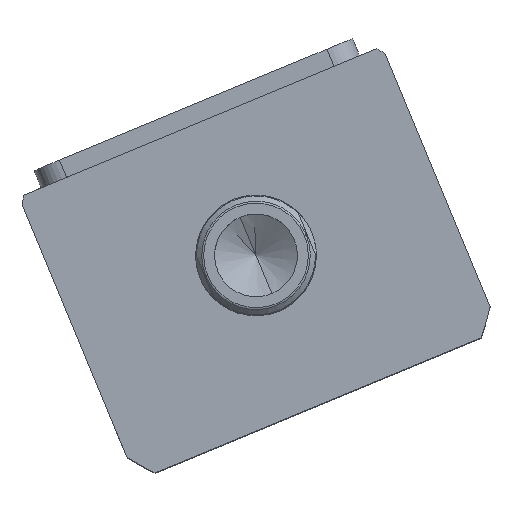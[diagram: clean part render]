
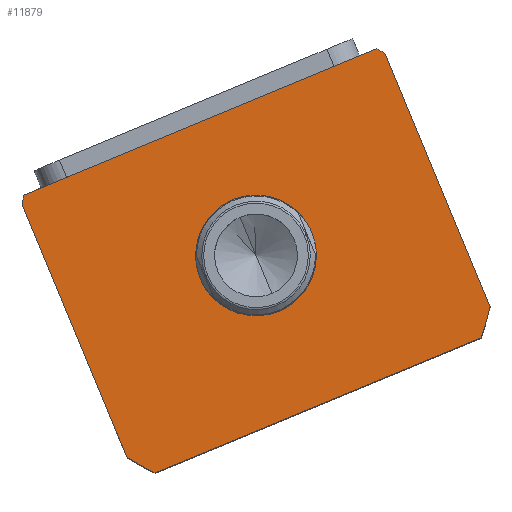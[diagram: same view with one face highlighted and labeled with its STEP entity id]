
A CAD part, top view. The second image highlights one B-rep face of the part: STEP entity #11879.
In plain terms, the highlighted planar face has unit normal (0, 0, 1) as drawn and (0, 0, -1) by its records, which use the part's own axes.
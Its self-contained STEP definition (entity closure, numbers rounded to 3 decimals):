
#265 = ORIENTED_EDGE ( 'NONE', *, *, #2954, .F. ) ;
#754 = CARTESIAN_POINT ( 'NONE',  ( -55.374, 44.5, 0. ) ) ;
#919 = CARTESIAN_POINT ( 'NONE',  ( 57., 44.5, 0. ) ) ;
#961 = CARTESIAN_POINT ( 'NONE',  ( 51.198, -44.5, 0. ) ) ;
#994 = FACE_BOUND ( 'NONE', #2197, .T. ) ;
#1126 = CIRCLE ( 'NONE', #1950, 69.5 ) ;
#1186 = CARTESIAN_POINT ( 'NONE',  ( 0., 2.5, 0. ) ) ;
#1414 = ORIENTED_EDGE ( 'NONE', *, *, #6370, .F. ) ;
#1782 = CIRCLE ( 'NONE', #2218, 17.5 ) ;
#1824 = EDGE_CURVE ( 'NONE', #11654, #15796, #1126, .T. ) ;
#1950 = AXIS2_PLACEMENT_3D ( 'NONE', #16432, #16376, #16255 ) ;
#2197 = EDGE_LOOP ( 'NONE', ( #7407, #4196 ) ) ;
#2218 = AXIS2_PLACEMENT_3D ( 'NONE', #13843, #5112, #15318 ) ;
#2229 = CARTESIAN_POINT ( 'NONE',  ( 0., 2.5, 0. ) ) ;
#2289 = LINE ( 'NONE', #16234, #6203 ) ;
#2674 = DIRECTION ( 'NONE',  ( 1., 0., 0. ) ) ;
#2954 = EDGE_CURVE ( 'NONE', #15796, #15752, #16166, .T. ) ;
#2955 = VECTOR ( 'NONE', #8314, 1000. ) ;
#3104 = VECTOR ( 'NONE', #13516, 1000. ) ;
#3385 = CARTESIAN_POINT ( 'NONE',  ( 55.374, 44.5, 0. ) ) ;
#3561 = LINE ( 'NONE', #10507, #3104 ) ;
#3716 = DIRECTION ( 'NONE',  ( 1., 0., 0. ) ) ;
#4142 = EDGE_LOOP ( 'NONE', ( #1414, #17669, #18118, #9665, #9885, #265, #14489, #13562 ) ) ;
#4196 = ORIENTED_EDGE ( 'NONE', *, *, #17412, .T. ) ;
#4431 = CARTESIAN_POINT ( 'NONE',  ( -57., 42.265, 0. ) ) ;
#4912 = CARTESIAN_POINT ( 'NONE',  ( 0., 2.5, 0. ) ) ;
#5112 = DIRECTION ( 'NONE',  ( 0., 0., 1. ) ) ;
#5217 = VERTEX_POINT ( 'NONE', #7230 ) ;
#5307 = EDGE_CURVE ( 'NONE', #15752, #5217, #17941, .T. ) ;
#6203 = VECTOR ( 'NONE', #8942, 1000. ) ;
#6370 = EDGE_CURVE ( 'NONE', #14576, #15954, #17255, .T. ) ;
#6379 = DIRECTION ( 'NONE',  ( 1., 0., 0. ) ) ;
#6705 = CARTESIAN_POINT ( 'NONE',  ( -57., 44.5, 0. ) ) ;
#6947 = PLANE ( 'NONE',  #7710 ) ;
#7230 = CARTESIAN_POINT ( 'NONE',  ( -51.198, -44.5, 0. ) ) ;
#7407 = ORIENTED_EDGE ( 'NONE', *, *, #16892, .T. ) ;
#7554 = VERTEX_POINT ( 'NONE', #961 ) ;
#7710 = AXIS2_PLACEMENT_3D ( 'NONE', #18561, #8419, #18620 ) ;
#7938 = VECTOR ( 'NONE', #9604, 1000. ) ;
#8097 = DIRECTION ( 'NONE',  ( 0., 0., 1. ) ) ;
#8260 = VERTEX_POINT ( 'NONE', #9188 ) ;
#8314 = DIRECTION ( 'NONE',  ( 0., 1., 0. ) ) ;
#8353 = FACE_OUTER_BOUND ( 'NONE', #4142, .T. ) ;
#8419 = DIRECTION ( 'NONE',  ( 0., 0., 1. ) ) ;
#8942 = DIRECTION ( 'NONE',  ( 1., 0., 0. ) ) ;
#9054 = EDGE_CURVE ( 'NONE', #15954, #11654, #3561, .T. ) ;
#9115 = CARTESIAN_POINT ( 'NONE',  ( 57., -37.265, 0. ) ) ;
#9188 = CARTESIAN_POINT ( 'NONE',  ( 17.5, 2.5, 0. ) ) ;
#9327 = CARTESIAN_POINT ( 'NONE',  ( -17.5, 2.5, 0. ) ) ;
#9604 = DIRECTION ( 'NONE',  ( 0., -1., 0. ) ) ;
#9665 = ORIENTED_EDGE ( 'NONE', *, *, #14220, .F. ) ;
#9885 = ORIENTED_EDGE ( 'NONE', *, *, #5307, .F. ) ;
#10220 = CARTESIAN_POINT ( 'NONE',  ( -57., -37.265, 0. ) ) ;
#10507 = CARTESIAN_POINT ( 'NONE',  ( -57., 44.5, 0. ) ) ;
#10998 = VERTEX_POINT ( 'NONE', #9115 ) ;
#11423 = DIRECTION ( 'NONE',  ( 0., 0., 1. ) ) ;
#11449 = CIRCLE ( 'NONE', #14807, 69.5 ) ;
#11654 = VERTEX_POINT ( 'NONE', #754 ) ;
#11737 = AXIS2_PLACEMENT_3D ( 'NONE', #1186, #11423, #2674 ) ;
#11879 = ADVANCED_FACE ( 'NONE', ( #994, #8353 ), #6947, .F. ) ;
#12469 = DIRECTION ( 'NONE',  ( 0., 0., 1. ) ) ;
#13516 = DIRECTION ( 'NONE',  ( -1., 0., 0. ) ) ;
#13562 = ORIENTED_EDGE ( 'NONE', *, *, #9054, .F. ) ;
#13839 = EDGE_CURVE ( 'NONE', #7554, #10998, #11449, .T. ) ;
#13843 = CARTESIAN_POINT ( 'NONE',  ( 0., 2.5, 0. ) ) ;
#13990 = AXIS2_PLACEMENT_3D ( 'NONE', #16835, #8097, #18305 ) ;
#14220 = EDGE_CURVE ( 'NONE', #5217, #7554, #2289, .T. ) ;
#14489 = ORIENTED_EDGE ( 'NONE', *, *, #1824, .F. ) ;
#14551 = CARTESIAN_POINT ( 'NONE',  ( 57., 42.265, 0. ) ) ;
#14576 = VERTEX_POINT ( 'NONE', #14551 ) ;
#14807 = AXIS2_PLACEMENT_3D ( 'NONE', #2229, #12469, #3716 ) ;
#14890 = VERTEX_POINT ( 'NONE', #9327 ) ;
#15123 = DIRECTION ( 'NONE',  ( 0., 0., 1. ) ) ;
#15318 = DIRECTION ( 'NONE',  ( 1., 0., 0. ) ) ;
#15752 = VERTEX_POINT ( 'NONE', #10220 ) ;
#15796 = VERTEX_POINT ( 'NONE', #4431 ) ;
#15954 = VERTEX_POINT ( 'NONE', #3385 ) ;
#16166 = LINE ( 'NONE', #6705, #7938 ) ;
#16234 = CARTESIAN_POINT ( 'NONE',  ( -57., -44.5, 0. ) ) ;
#16235 = CIRCLE ( 'NONE', #13990, 17.5 ) ;
#16255 = DIRECTION ( 'NONE',  ( 1., 0., 0. ) ) ;
#16376 = DIRECTION ( 'NONE',  ( 0., 0., 1. ) ) ;
#16432 = CARTESIAN_POINT ( 'NONE',  ( 0., 2.5, 0. ) ) ;
#16835 = CARTESIAN_POINT ( 'NONE',  ( 0., 2.5, 0. ) ) ;
#16892 = EDGE_CURVE ( 'NONE', #8260, #14890, #1782, .T. ) ;
#17255 = CIRCLE ( 'NONE', #18223, 69.5 ) ;
#17412 = EDGE_CURVE ( 'NONE', #14890, #8260, #16235, .T. ) ;
#17669 = ORIENTED_EDGE ( 'NONE', *, *, #18502, .F. ) ;
#17941 = CIRCLE ( 'NONE', #11737, 69.5 ) ;
#18118 = ORIENTED_EDGE ( 'NONE', *, *, #13839, .F. ) ;
#18223 = AXIS2_PLACEMENT_3D ( 'NONE', #4912, #15123, #6379 ) ;
#18305 = DIRECTION ( 'NONE',  ( 1., 0., 0. ) ) ;
#18502 = EDGE_CURVE ( 'NONE', #10998, #14576, #18957, .T. ) ;
#18561 = CARTESIAN_POINT ( 'NONE',  ( 0., 0., 0. ) ) ;
#18620 = DIRECTION ( 'NONE',  ( 1., 0., 0. ) ) ;
#18957 = LINE ( 'NONE', #919, #2955 ) ;
